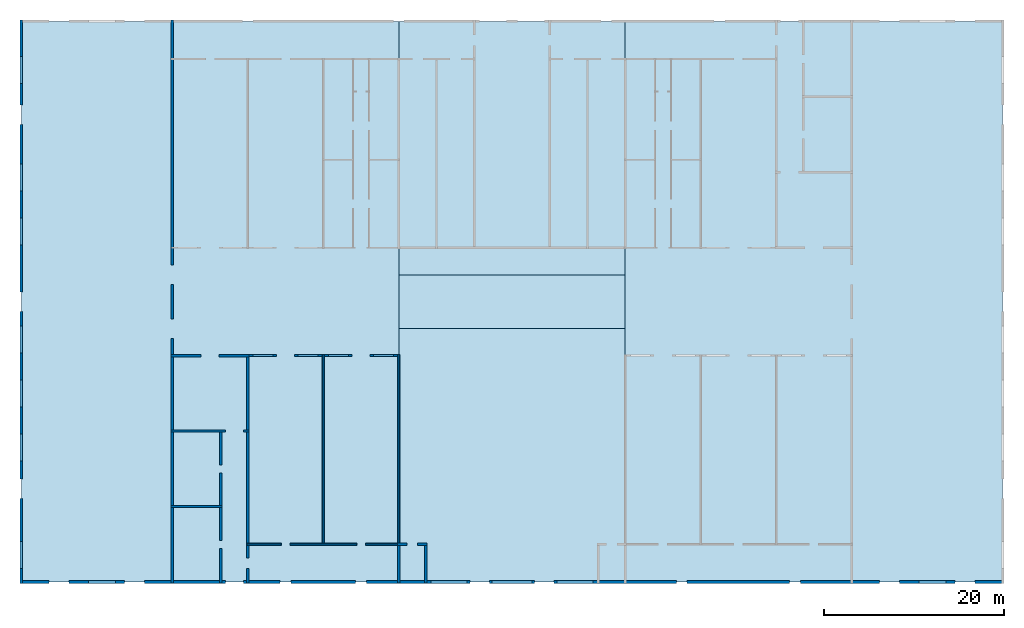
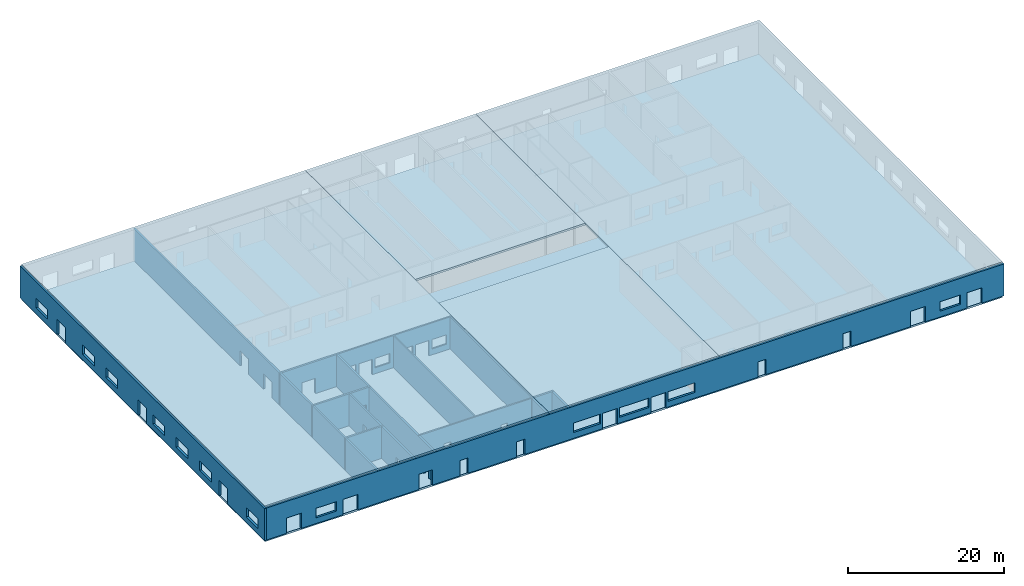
# One storey, part 1 of 3: 15 walls, 5 slabs, 58 openings.
"""IFC4 building model written with IfcOpenShell, lengths in millimetres."""

from ifc_helpers import new_model, si_unit, frame, origin_with_axes, place, context, subcontext, project, spatial, indexed_curve, outline, extrude, type_object, element, save


model = new_model("IFC4")

# Units and contexts
model_context = context("Model", 3, precision=1e-05, world=origin_with_axes())
body_context = subcontext(model_context, "Body", "Model", "MODEL_VIEW")
ifc_project = project(units=[si_unit("AREAUNIT", "SQUARE_METRE"), si_unit("VOLUMEUNIT", "CUBIC_METRE"), si_unit("LENGTHUNIT", "METRE", prefix="MILLI")], contexts=[model_context])

# Site, building, storey
site = spatial("IfcSite", under=ifc_project, Name="PIN 00000000 (sample)")
building = spatial("IfcBuilding", under=site, Name="Sample Shopping Mall")
storey = spatial("IfcBuildingStorey", under=building, Name="Ground Floor", Elevation=0.0)

# Slabs
slab_1_placement = place(None, frame((0.0, 0.0, -300.0), z_axis=(0.0, 0.0, 1.0), x_axis=(1.0, 0.0, 0.0)))
element("IfcSlab", 1, at=slab_1_placement, inside=storey, Name="Ground slab", PredefinedType="FLOOR", context=body_context, shape_type="SweptSolid", body=[
    extrude(outline(indexed_curve([(5400.0, 15600.0), (114599.99999999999, 15600.0), (114599.99999999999, 78000.0), (5400.0, 78000.0)])), None, (0.0, 0.0, 1.0), 300.0),
])
slab_2_placement = place(None, frame((0.0, 0.0, 5000.0), z_axis=(0.0, 0.0, 1.0), x_axis=(1.0, 0.0, 0.0)))
element("IfcSlab", 2, at=slab_2_placement, inside=storey, Name="Roof slab 0", PredefinedType="ROOF", context=body_context, shape_type="SweptSolid", body=[
    extrude(outline(indexed_curve([(5400.0, 15600.0), (47400.0, 15600.0), (47400.0, 78000.0), (5400.0, 78000.0)])), None, (0.0, 0.0, 1.0), 300.0),
])
slab_3_placement = place(None, frame((0.0, 0.0, 5000.0), z_axis=(0.0, 0.0, 1.0), x_axis=(1.0, 0.0, 0.0)))
element("IfcSlab", 3, at=slab_3_placement, inside=storey, Name="Roof slab 1", PredefinedType="ROOF", context=body_context, shape_type="SweptSolid", body=[
    extrude(outline(indexed_curve([(72600.0, 15600.0), (114599.99999999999, 15600.0), (114599.99999999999, 78000.0), (72600.0, 78000.0)])), None, (0.0, 0.0, 1.0), 300.0),
])
slab_4_placement = place(None, frame((0.0, 0.0, 5000.0), z_axis=(0.0, 0.0, 1.0), x_axis=(1.0, 0.0, 0.0)))
element("IfcSlab", 4, at=slab_4_placement, inside=storey, Name="Roof slab 2", PredefinedType="ROOF", context=body_context, shape_type="SweptSolid", body=[
    extrude(outline(indexed_curve([(47400.0, 15600.0), (72600.0, 15600.0), (72600.0, 43799.99999999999), (47400.0, 43799.99999999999)])), None, (0.0, 0.0, 1.0), 300.0),
])
slab_5_placement = place(None, frame((0.0, 0.0, 5000.0), z_axis=(0.0, 0.0, 1.0), x_axis=(1.0, 0.0, 0.0)))
element("IfcSlab", 5, at=slab_5_placement, inside=storey, Name="Roof slab 3", PredefinedType="ROOF", context=body_context, shape_type="SweptSolid", body=[
    extrude(outline(indexed_curve([(47400.0, 49799.99999999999), (72600.0, 49799.99999999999), (72600.0, 78000.0), (47400.0, 78000.0)])), None, (0.0, 0.0, 1.0), 300.0),
])

# Wall, openings
wall_type_1 = type_object("IfcWallType", Name="WT-300", PredefinedType="SOLIDWALL")
wall_1_placement = place(None, frame((5250.0, 15449.999999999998, 0.0), z_axis=(0.0, 0.0, 1.0), x_axis=(1.0, 0.0, 0.0)))
wall_1 = element("IfcWall", 6, at=wall_1_placement, inside=storey, type_object=wall_type_1, Name="W0", context=body_context, shape_type="SweptSolid", body=[
    extrude(outline(indexed_curve([(0.0, 0.0), (0.0, 300.0), (109499.99999999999, 300.0), (109499.99999999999, 0.0), (0.0, 0.0)], self_intersect=False)), origin_with_axes(), (0.0, 0.0, 1.0), 5000.0),
])
opening_1_placement = place(wall_1_placement, frame((50049.99999999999, -99.99999999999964, 0.0), z_axis=(0.0, 0.0, 1.0), x_axis=(1.0, 0.0, 0.0)))
element("IfcOpeningElement", 7, at=opening_1_placement, cuts=wall_1, Name="D03-opening", context=body_context, shape_type="SweptSolid", body=[
    extrude(outline(indexed_curve([(0.0, 0.0), (0.0, 500.0), (1100.0, 500.0), (1100.0, 0.0), (0.0, 0.0)], self_intersect=False)), origin_with_axes(), (0.0, 0.0, 1.0), 2400.0),
])
opening_2_placement = place(wall_1_placement, frame((51150.0, -99.99999999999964, 0.0), z_axis=(0.0, 0.0, 1.0), x_axis=(1.0, 0.0, 0.0)))
element("IfcOpeningElement", 8, at=opening_2_placement, cuts=wall_1, Name="-opening", context=body_context, shape_type="SweptSolid", body=[
    extrude(outline(indexed_curve([(0.0, 0.0), (0.0, 500.0), (1100.0, 500.0), (1100.0, 0.0), (0.0, 0.0)], self_intersect=False)), origin_with_axes(), (0.0, 0.0, 1.0), 2400.0),
])
opening_3_placement = place(wall_1_placement, frame((57250.0, -99.99999999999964, 0.0), z_axis=(0.0, 0.0, 1.0), x_axis=(1.0, 0.0, 0.0)))
element("IfcOpeningElement", 9, at=opening_3_placement, cuts=wall_1, Name="D04-opening", context=body_context, shape_type="SweptSolid", body=[
    extrude(outline(indexed_curve([(0.0, 0.0), (0.0, 500.0), (1100.0, 500.0), (1100.0, 0.0), (0.0, 0.0)], self_intersect=False)), origin_with_axes(), (0.0, 0.0, 1.0), 2400.0),
])
opening_4_placement = place(wall_1_placement, frame((58350.0, -99.99999999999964, 0.0), z_axis=(0.0, 0.0, 1.0), x_axis=(1.0, 0.0, 0.0)))
element("IfcOpeningElement", 10, at=opening_4_placement, cuts=wall_1, Name="-opening", context=body_context, shape_type="SweptSolid", body=[
    extrude(outline(indexed_curve([(0.0, 0.0), (0.0, 500.0), (1100.0, 500.0), (1100.0, 0.0), (0.0, 0.0)], self_intersect=False)), origin_with_axes(), (0.0, 0.0, 1.0), 2400.0),
])
opening_5_placement = place(wall_1_placement, frame((3250.0, -99.99999999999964, 0.0), z_axis=(0.0, 0.0, 1.0), x_axis=(1.0, 0.0, 0.0)))
element("IfcOpeningElement", 11, at=opening_5_placement, cuts=wall_1, Name="D10-opening", context=body_context, shape_type="SweptSolid", body=[
    extrude(outline(indexed_curve([(0.0, 0.0), (0.0, 500.0), (1100.0, 500.0), (1100.0, 0.0), (0.0, 0.0)], self_intersect=False)), origin_with_axes(), (0.0, 0.0, 1.0), 2400.0),
])
opening_6_placement = place(wall_1_placement, frame((4350.000000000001, -99.99999999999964, 0.0), z_axis=(0.0, 0.0, 1.0), x_axis=(1.0, 0.0, 0.0)))
element("IfcOpeningElement", 12, at=opening_6_placement, cuts=wall_1, Name="-opening", context=body_context, shape_type="SweptSolid", body=[
    extrude(outline(indexed_curve([(0.0, 0.0), (0.0, 500.0), (1100.0, 500.0), (1100.0, 0.0), (0.0, 0.0)], self_intersect=False)), origin_with_axes(), (0.0, 0.0, 1.0), 2400.0),
])
opening_7_placement = place(wall_1_placement, frame((11649.999999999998, -99.99999999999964, 0.0), z_axis=(0.0, 0.0, 1.0), x_axis=(1.0, 0.0, 0.0)))
element("IfcOpeningElement", 13, at=opening_7_placement, cuts=wall_1, Name="D11-opening", context=body_context, shape_type="SweptSolid", body=[
    extrude(outline(indexed_curve([(0.0, 0.0), (0.0, 500.0), (1100.0, 500.0), (1100.0, 0.0), (0.0, 0.0)], self_intersect=False)), origin_with_axes(), (0.0, 0.0, 1.0), 2400.0),
])
opening_8_placement = place(wall_1_placement, frame((12750.0, -99.99999999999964, 0.0), z_axis=(0.0, 0.0, 1.0), x_axis=(1.0, 0.0, 0.0)))
element("IfcOpeningElement", 14, at=opening_8_placement, cuts=wall_1, Name="-opening", context=body_context, shape_type="SweptSolid", body=[
    extrude(outline(indexed_curve([(0.0, 0.0), (0.0, 500.0), (1100.0, 500.0), (1100.0, 0.0), (0.0, 0.0)], self_intersect=False)), origin_with_axes(), (0.0, 0.0, 1.0), 2400.0),
])
opening_9_placement = place(wall_1_placement, frame((95650.0, -99.99999999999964, 0.0), z_axis=(0.0, 0.0, 1.0), x_axis=(1.0, 0.0, 0.0)))
element("IfcOpeningElement", 15, at=opening_9_placement, cuts=wall_1, Name="D19-opening", context=body_context, shape_type="SweptSolid", body=[
    extrude(outline(indexed_curve([(0.0, 0.0), (0.0, 500.0), (1100.0, 500.0), (1100.0, 0.0), (0.0, 0.0)], self_intersect=False)), origin_with_axes(), (0.0, 0.0, 1.0), 2400.0),
])
opening_10_placement = place(wall_1_placement, frame((96750.0, -99.99999999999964, 0.0), z_axis=(0.0, 0.0, 1.0), x_axis=(1.0, 0.0, 0.0)))
element("IfcOpeningElement", 16, at=opening_10_placement, cuts=wall_1, Name="-opening", context=body_context, shape_type="SweptSolid", body=[
    extrude(outline(indexed_curve([(0.0, 0.0), (0.0, 500.0), (1100.0, 500.0), (1100.0, 0.0), (0.0, 0.0)], self_intersect=False)), origin_with_axes(), (0.0, 0.0, 1.0), 2400.0),
])
opening_11_placement = place(wall_1_placement, frame((104050.00000000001, -99.99999999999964, 0.0), z_axis=(0.0, 0.0, 1.0), x_axis=(1.0, 0.0, 0.0)))
element("IfcOpeningElement", 17, at=opening_11_placement, cuts=wall_1, Name="D20-opening", context=body_context, shape_type="SweptSolid", body=[
    extrude(outline(indexed_curve([(0.0, 0.0), (0.0, 500.0), (1100.0, 500.0), (1100.0, 0.0), (0.0, 0.0)], self_intersect=False)), origin_with_axes(), (0.0, 0.0, 1.0), 2400.0),
])
opening_12_placement = place(wall_1_placement, frame((105150.0, -99.99999999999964, 0.0), z_axis=(0.0, 0.0, 1.0), x_axis=(1.0, 0.0, 0.0)))
element("IfcOpeningElement", 18, at=opening_12_placement, cuts=wall_1, Name="-opening", context=body_context, shape_type="SweptSolid", body=[
    extrude(outline(indexed_curve([(0.0, 0.0), (0.0, 500.0), (1100.0, 500.0), (1100.0, 0.0), (0.0, 0.0)], self_intersect=False)), origin_with_axes(), (0.0, 0.0, 1.0), 2400.0),
])
opening_13_placement = place(wall_1_placement, frame((28950.000000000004, -99.99999999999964, 0.0), z_axis=(0.0, 0.0, 1.0), x_axis=(1.0, 0.0, 0.0)))
element("IfcOpeningElement", 19, at=opening_13_placement, cuts=wall_1, Name="D23-opening", context=body_context, shape_type="SweptSolid", body=[
    extrude(outline(indexed_curve([(0.0, 0.0), (0.0, 500.0), (1200.0, 500.0), (1200.0, 0.0), (0.0, 0.0)], self_intersect=False)), origin_with_axes(), (0.0, 0.0, 1.0), 2400.0),
])
opening_14_placement = place(wall_1_placement, frame((37350.0, -99.99999999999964, 0.0), z_axis=(0.0, 0.0, 1.0), x_axis=(1.0, 0.0, 0.0)))
element("IfcOpeningElement", 20, at=opening_14_placement, cuts=wall_1, Name="D24-opening", context=body_context, shape_type="SweptSolid", body=[
    extrude(outline(indexed_curve([(0.0, 0.0), (0.0, 500.0), (1200.0, 500.0), (1200.0, 0.0), (0.0, 0.0)], self_intersect=False)), origin_with_axes(), (0.0, 0.0, 1.0), 2400.0),
])
opening_15_placement = place(wall_1_placement, frame((73050.00000000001, -99.99999999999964, 0.0), z_axis=(0.0, 0.0, 1.0), x_axis=(1.0, 0.0, 0.0)))
element("IfcOpeningElement", 21, at=opening_15_placement, cuts=wall_1, Name="D25-opening", context=body_context, shape_type="SweptSolid", body=[
    extrude(outline(indexed_curve([(0.0, 0.0), (0.0, 500.0), (1200.0, 500.0), (1200.0, 0.0), (0.0, 0.0)], self_intersect=False)), origin_with_axes(), (0.0, 0.0, 1.0), 2400.0),
])
opening_16_placement = place(wall_1_placement, frame((85650.0, -99.99999999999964, 0.0), z_axis=(0.0, 0.0, 1.0), x_axis=(1.0, 0.0, 0.0)))
element("IfcOpeningElement", 22, at=opening_16_placement, cuts=wall_1, Name="D26-opening", context=body_context, shape_type="SweptSolid", body=[
    extrude(outline(indexed_curve([(0.0, 0.0), (0.0, 500.0), (1200.0, 500.0), (1200.0, 0.0), (0.0, 0.0)], self_intersect=False)), origin_with_axes(), (0.0, 0.0, 1.0), 2400.0),
])
opening_17_placement = place(wall_1_placement, frame((22850.0, -99.99999999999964, 0.0), z_axis=(0.0, 0.0, 1.0), x_axis=(1.0, 0.0, 0.0)))
element("IfcOpeningElement", 23, at=opening_17_placement, cuts=wall_1, Name="D33-opening", context=body_context, shape_type="SweptSolid", body=[
    extrude(outline(indexed_curve([(0.0, 0.0), (0.0, 500.0), (1000.0, 500.0), (1000.0, 0.0), (0.0, 0.0)], self_intersect=False)), origin_with_axes(), (0.0, 0.0, 1.0), 2400.0),
])
opening_18_placement = place(wall_1_placement, frame((23850.0, -99.99999999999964, 0.0), z_axis=(0.0, 0.0, 1.0), x_axis=(1.0, 0.0, 0.0)))
element("IfcOpeningElement", 24, at=opening_18_placement, cuts=wall_1, Name="-opening", context=body_context, shape_type="SweptSolid", body=[
    extrude(outline(indexed_curve([(0.0, 0.0), (0.0, 500.0), (1000.0, 500.0), (1000.0, 0.0), (0.0, 0.0)], self_intersect=False)), origin_with_axes(), (0.0, 0.0, 1.0), 2400.0),
])
opening_19_placement = place(wall_1_placement, frame((45750.0, -99.99999999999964, 900.0), z_axis=(0.0, 0.0, 1.0), x_axis=(1.0, 0.0, 0.0)))
element("IfcOpeningElement", 25, at=opening_19_placement, cuts=wall_1, Name="-opening", context=body_context, shape_type="SweptSolid", body=[
    extrude(outline(indexed_curve([(0.0, 0.0), (0.0, 500.0), (4000.0, 500.0), (4000.0, 0.0), (0.0, 0.0)], self_intersect=False)), origin_with_axes(), (0.0, 0.0, 1.0), 1500.0),
])
opening_20_placement = place(wall_1_placement, frame((52549.99999999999, -99.99999999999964, 900.0), z_axis=(0.0, 0.0, 1.0), x_axis=(1.0, 0.0, 0.0)))
element("IfcOpeningElement", 26, at=opening_20_placement, cuts=wall_1, Name="-opening", context=body_context, shape_type="SweptSolid", body=[
    extrude(outline(indexed_curve([(0.0, 0.0), (0.0, 500.0), (4400.0, 500.0), (4400.0, 0.0), (0.0, 0.0)], self_intersect=False)), origin_with_axes(), (0.0, 0.0, 1.0), 1500.0),
])
opening_21_placement = place(wall_1_placement, frame((59750.0, -99.99999999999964, 900.0), z_axis=(0.0, 0.0, 1.0), x_axis=(1.0, 0.0, 0.0)))
element("IfcOpeningElement", 27, at=opening_21_placement, cuts=wall_1, Name="-opening", context=body_context, shape_type="SweptSolid", body=[
    extrude(outline(indexed_curve([(0.0, 0.0), (0.0, 500.0), (4000.0, 500.0), (4000.0, 0.0), (0.0, 0.0)], self_intersect=False)), origin_with_axes(), (0.0, 0.0, 1.0), 1500.0),
])
opening_22_placement = place(wall_1_placement, frame((7650.0, -99.99999999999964, 900.0), z_axis=(0.0, 0.0, 1.0), x_axis=(1.0, 0.0, 0.0)))
element("IfcOpeningElement", 28, at=opening_22_placement, cuts=wall_1, Name="-opening", context=body_context, shape_type="SweptSolid", body=[
    extrude(outline(indexed_curve([(0.0, 0.0), (0.0, 500.0), (3000.0, 500.0), (3000.0, 0.0), (0.0, 0.0)], self_intersect=False)), origin_with_axes(), (0.0, 0.0, 1.0), 1500.0),
])
opening_23_placement = place(wall_1_placement, frame((100050.00000000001, -99.99999999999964, 900.0), z_axis=(0.0, 0.0, 1.0), x_axis=(1.0, 0.0, 0.0)))
element("IfcOpeningElement", 29, at=opening_23_placement, cuts=wall_1, Name="-opening", context=body_context, shape_type="SweptSolid", body=[
    extrude(outline(indexed_curve([(0.0, 0.0), (0.0, 500.0), (3000.0, 500.0), (3000.0, 0.0), (0.0, 0.0)], self_intersect=False)), origin_with_axes(), (0.0, 0.0, 1.0), 1500.0),
])

wall_2_placement = place(None, frame((5550.000000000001, 15449.999999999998, 0.0), z_axis=(0.0, 0.0, 1.0), x_axis=(6.123233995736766e-17, 1.0, 0.0)))
wall_2 = element("IfcWall", 30, at=wall_2_placement, inside=storey, type_object=wall_type_1, Name="W27", context=body_context, shape_type="SweptSolid", body=[
    extrude(outline(indexed_curve([(0.0, 0.0), (0.0, 300.0), (62699.99999999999, 300.0), (62699.99999999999, 0.0), (0.0, 0.0)], self_intersect=False)), origin_with_axes(), (0.0, 0.0, 1.0), 5000.0),
])
opening_24_placement = place(wall_2_placement, frame((9450.0, -99.99999999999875, 0.0), z_axis=(0.0, 0.0, 1.0), x_axis=(1.0, 0.0, 0.0)))
element("IfcOpeningElement", 31, at=opening_24_placement, cuts=wall_2, Name="D07-opening", context=body_context, shape_type="SweptSolid", body=[
    extrude(outline(indexed_curve([(0.0, 0.0), (0.0, 500.0), (1100.0, 500.0), (1100.0, 0.0), (0.0, 0.0)], self_intersect=False)), origin_with_axes(), (0.0, 0.0, 1.0), 2400.0),
])
opening_25_placement = place(wall_2_placement, frame((10550.0, -99.99999999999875, 0.0), z_axis=(0.0, 0.0, 1.0), x_axis=(1.0, 0.0, 0.0)))
element("IfcOpeningElement", 32, at=opening_25_placement, cuts=wall_2, Name="-opening", context=body_context, shape_type="SweptSolid", body=[
    extrude(outline(indexed_curve([(0.0, 0.0), (0.0, 500.0), (1100.0, 500.0), (1100.0, 0.0), (0.0, 0.0)], self_intersect=False)), origin_with_axes(), (0.0, 0.0, 1.0), 2400.0),
])
opening_26_placement = place(wall_2_placement, frame((30250.000000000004, -99.99999999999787, 0.0), z_axis=(0.0, 0.0, 1.0), x_axis=(1.0, 0.0, 0.0)))
element("IfcOpeningElement", 33, at=opening_26_placement, cuts=wall_2, Name="D08-opening", context=body_context, shape_type="SweptSolid", body=[
    extrude(outline(indexed_curve([(0.0, 0.0), (0.0, 500.0), (1100.0, 500.0), (1100.0, 0.0), (0.0, 0.0)], self_intersect=False)), origin_with_axes(), (0.0, 0.0, 1.0), 2400.0),
])
opening_27_placement = place(wall_2_placement, frame((31349.999999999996, -99.99999999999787, 0.0), z_axis=(0.0, 0.0, 1.0), x_axis=(1.0, 0.0, 0.0)))
element("IfcOpeningElement", 34, at=opening_27_placement, cuts=wall_2, Name="-opening", context=body_context, shape_type="SweptSolid", body=[
    extrude(outline(indexed_curve([(0.0, 0.0), (0.0, 500.0), (1100.0, 500.0), (1100.0, 0.0), (0.0, 0.0)], self_intersect=False)), origin_with_axes(), (0.0, 0.0, 1.0), 2400.0),
])
opening_28_placement = place(wall_2_placement, frame((51049.99999999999, -99.99999999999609, 0.0), z_axis=(0.0, 0.0, 1.0), x_axis=(1.0, 0.0, 0.0)))
element("IfcOpeningElement", 35, at=opening_28_placement, cuts=wall_2, Name="D09-opening", context=body_context, shape_type="SweptSolid", body=[
    extrude(outline(indexed_curve([(0.0, 0.0), (0.0, 500.0), (1100.0, 500.0), (1100.0, 0.0), (0.0, 0.0)], self_intersect=False)), origin_with_axes(), (0.0, 0.0, 1.0), 2400.0),
])
opening_29_placement = place(wall_2_placement, frame((52149.99999999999, -99.99999999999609, 0.0), z_axis=(0.0, 0.0, 1.0), x_axis=(1.0, 0.0, 0.0)))
element("IfcOpeningElement", 36, at=opening_29_placement, cuts=wall_2, Name="-opening", context=body_context, shape_type="SweptSolid", body=[
    extrude(outline(indexed_curve([(0.0, 0.0), (0.0, 500.0), (1100.0, 500.0), (1100.0, 0.0), (0.0, 0.0)], self_intersect=False)), origin_with_axes(), (0.0, 0.0, 1.0), 2400.0),
])
opening_30_placement = place(wall_2_placement, frame((1650.000000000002, -99.99999999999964, 900.0), z_axis=(0.0, 0.0, 1.0), x_axis=(1.0, 0.0, 0.0)))
element("IfcOpeningElement", 37, at=opening_30_placement, cuts=wall_2, Name="-opening", context=body_context, shape_type="SweptSolid", body=[
    extrude(outline(indexed_curve([(0.0, 0.0), (0.0, 500.0), (3000.0, 500.0), (3000.0, 0.0), (0.0, 0.0)], self_intersect=False)), origin_with_axes(), (0.0, 0.0, 1.0), 1500.0),
])
opening_31_placement = place(wall_2_placement, frame((13650.000000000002, -99.99999999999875, 900.0), z_axis=(0.0, 0.0, 1.0), x_axis=(1.0, 0.0, 0.0)))
element("IfcOpeningElement", 38, at=opening_31_placement, cuts=wall_2, Name="-opening", context=body_context, shape_type="SweptSolid", body=[
    extrude(outline(indexed_curve([(0.0, 0.0), (0.0, 500.0), (3000.0, 500.0), (3000.0, 0.0), (0.0, 0.0)], self_intersect=False)), origin_with_axes(), (0.0, 0.0, 1.0), 1500.0),
])
opening_32_placement = place(wall_2_placement, frame((19650.0, -99.99999999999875, 900.0), z_axis=(0.0, 0.0, 1.0), x_axis=(1.0, 0.0, 0.0)))
element("IfcOpeningElement", 39, at=opening_32_placement, cuts=wall_2, Name="-opening", context=body_context, shape_type="SweptSolid", body=[
    extrude(outline(indexed_curve([(0.0, 0.0), (0.0, 500.0), (3000.0, 500.0), (3000.0, 0.0), (0.0, 0.0)], self_intersect=False)), origin_with_axes(), (0.0, 0.0, 1.0), 1500.0),
])
opening_33_placement = place(wall_2_placement, frame((25650.0, -99.99999999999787, 900.0), z_axis=(0.0, 0.0, 1.0), x_axis=(1.0, 0.0, 0.0)))
element("IfcOpeningElement", 40, at=opening_33_placement, cuts=wall_2, Name="-opening", context=body_context, shape_type="SweptSolid", body=[
    extrude(outline(indexed_curve([(0.0, 0.0), (0.0, 500.0), (3000.0, 500.0), (3000.0, 0.0), (0.0, 0.0)], self_intersect=False)), origin_with_axes(), (0.0, 0.0, 1.0), 1500.0),
])
opening_34_placement = place(wall_2_placement, frame((37650.00000000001, -99.99999999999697, 900.0), z_axis=(0.0, 0.0, 1.0), x_axis=(1.0, 0.0, 0.0)))
element("IfcOpeningElement", 41, at=opening_34_placement, cuts=wall_2, Name="-opening", context=body_context, shape_type="SweptSolid", body=[
    extrude(outline(indexed_curve([(0.0, 0.0), (0.0, 500.0), (3000.0, 500.0), (3000.0, 0.0), (0.0, 0.0)], self_intersect=False)), origin_with_axes(), (0.0, 0.0, 1.0), 1500.0),
])
opening_35_placement = place(wall_2_placement, frame((43650.00000000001, -99.99999999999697, 900.0), z_axis=(0.0, 0.0, 1.0), x_axis=(1.0, 0.0, 0.0)))
element("IfcOpeningElement", 42, at=opening_35_placement, cuts=wall_2, Name="-opening", context=body_context, shape_type="SweptSolid", body=[
    extrude(outline(indexed_curve([(0.0, 0.0), (0.0, 500.0), (3000.0, 500.0), (3000.0, 0.0), (0.0, 0.0)], self_intersect=False)), origin_with_axes(), (0.0, 0.0, 1.0), 1500.0),
])
opening_36_placement = place(wall_2_placement, frame((55650.00000000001, -99.99999999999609, 900.0), z_axis=(0.0, 0.0, 1.0), x_axis=(1.0, 0.0, 0.0)))
element("IfcOpeningElement", 43, at=opening_36_placement, cuts=wall_2, Name="-opening", context=body_context, shape_type="SweptSolid", body=[
    extrude(outline(indexed_curve([(0.0, 0.0), (0.0, 500.0), (3000.0, 500.0), (3000.0, 0.0), (0.0, 0.0)], self_intersect=False)), origin_with_axes(), (0.0, 0.0, 1.0), 1500.0),
])

wall_type_2 = type_object("IfcWallType", Name="WT-200", PredefinedType="SOLIDWALL")
wall_3_placement = place(None, frame((30500.0, 19700.0, 0.0), z_axis=(0.0, 0.0, 1.0), x_axis=(1.0, 0.0, 0.0)))
wall_3 = element("IfcWall", 44, at=wall_3_placement, inside=storey, type_object=wall_type_2, Name="W1", context=body_context, shape_type="SweptSolid", body=[
    extrude(outline(indexed_curve([(0.0, 0.0), (0.0, 200.0), (16999.999999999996, 200.0), (16999.999999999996, 0.0), (0.0, 0.0)], self_intersect=False)), origin_with_axes(), (0.0, 0.0, 1.0), 5000.0),
])
opening_37_placement = place(wall_3_placement, frame((3800.000000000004, -99.99999999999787, 0.0), z_axis=(0.0, 0.0, 1.0), x_axis=(1.0, 0.0, 0.0)))
element("IfcOpeningElement", 45, at=opening_37_placement, cuts=wall_3, Name="-opening", context=body_context, shape_type="SweptSolid", body=[
    extrude(outline(indexed_curve([(0.0, 0.0), (0.0, 400.0), (1000.0, 400.0), (1000.0, 0.0), (0.0, 0.0)], self_intersect=False)), origin_with_axes(), (0.0, 0.0, 1.0), 2400.0),
])
opening_38_placement = place(wall_3_placement, frame((12200.000000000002, -99.99999999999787, 0.0), z_axis=(0.0, 0.0, 1.0), x_axis=(1.0, 0.0, 0.0)))
element("IfcOpeningElement", 46, at=opening_38_placement, cuts=wall_3, Name="-opening", context=body_context, shape_type="SweptSolid", body=[
    extrude(outline(indexed_curve([(0.0, 0.0), (0.0, 400.0), (1000.0, 400.0), (1000.0, 0.0), (0.0, 0.0)], self_intersect=False)), origin_with_axes(), (0.0, 0.0, 1.0), 2400.0),
])

wall_4_placement = place(None, frame((30500.0, 40699.99999999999, 0.0), z_axis=(0.0, 0.0, 1.0), x_axis=(1.0, 0.0, 0.0)))
wall_4 = element("IfcWall", 47, at=wall_4_placement, inside=storey, type_object=wall_type_2, Name="W8", context=body_context, shape_type="SweptSolid", body=[
    extrude(outline(indexed_curve([(0.0, 0.0), (0.0, 200.0), (16999.999999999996, 200.0), (16999.999999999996, 0.0), (0.0, 0.0)], self_intersect=False)), origin_with_axes(), (0.0, 0.0, 1.0), 5000.0),
])
opening_39_placement = place(wall_4_placement, frame((3299.9999999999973, -100.00000000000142, 0.0), z_axis=(0.0, 0.0, 1.0), x_axis=(1.0, 0.0, 0.0)))
element("IfcOpeningElement", 48, at=opening_39_placement, cuts=wall_4, Name="D37-opening", context=body_context, shape_type="SweptSolid", body=[
    extrude(outline(indexed_curve([(0.0, 0.0), (0.0, 400.0), (1000.0, 400.0), (1000.0, 0.0), (0.0, 0.0)], self_intersect=False)), origin_with_axes(), (0.0, 0.0, 1.0), 2400.0),
])
opening_40_placement = place(wall_4_placement, frame((4300.000000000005, -100.00000000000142, 0.0), z_axis=(0.0, 0.0, 1.0), x_axis=(1.0, 0.0, 0.0)))
element("IfcOpeningElement", 49, at=opening_40_placement, cuts=wall_4, Name="-opening", context=body_context, shape_type="SweptSolid", body=[
    extrude(outline(indexed_curve([(0.0, 0.0), (0.0, 400.0), (1000.0, 400.0), (1000.0, 0.0), (0.0, 0.0)], self_intersect=False)), origin_with_axes(), (0.0, 0.0, 1.0), 2400.0),
])
opening_41_placement = place(wall_4_placement, frame((11700.000000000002, -100.00000000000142, 0.0), z_axis=(0.0, 0.0, 1.0), x_axis=(1.0, 0.0, 0.0)))
element("IfcOpeningElement", 50, at=opening_41_placement, cuts=wall_4, Name="D39-opening", context=body_context, shape_type="SweptSolid", body=[
    extrude(outline(indexed_curve([(0.0, 0.0), (0.0, 400.0), (1000.0, 400.0), (1000.0, 0.0), (0.0, 0.0)], self_intersect=False)), origin_with_axes(), (0.0, 0.0, 1.0), 2400.0),
])
opening_42_placement = place(wall_4_placement, frame((12700.000000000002, -100.00000000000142, 0.0), z_axis=(0.0, 0.0, 1.0), x_axis=(1.0, 0.0, 0.0)))
element("IfcOpeningElement", 51, at=opening_42_placement, cuts=wall_4, Name="-opening", context=body_context, shape_type="SweptSolid", body=[
    extrude(outline(indexed_curve([(0.0, 0.0), (0.0, 400.0), (1000.0, 400.0), (1000.0, 0.0), (0.0, 0.0)], self_intersect=False)), origin_with_axes(), (0.0, 0.0, 1.0), 2400.0),
])
opening_43_placement = place(wall_4_placement, frame((700.0000000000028, -100.00000000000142, 900.0), z_axis=(0.0, 0.0, 1.0), x_axis=(1.0, 0.0, 0.0)))
element("IfcOpeningElement", 52, at=opening_43_placement, cuts=wall_4, Name="-opening", context=body_context, shape_type="SweptSolid", body=[
    extrude(outline(indexed_curve([(0.0, 0.0), (0.0, 400.0), (2200.0, 400.0), (2200.0, 0.0), (0.0, 0.0)], self_intersect=False)), origin_with_axes(), (0.0, 0.0, 1.0), 1500.0),
])
opening_44_placement = place(wall_4_placement, frame((5700.000000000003, -100.00000000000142, 900.0), z_axis=(0.0, 0.0, 1.0), x_axis=(1.0, 0.0, 0.0)))
element("IfcOpeningElement", 53, at=opening_44_placement, cuts=wall_4, Name="-opening", context=body_context, shape_type="SweptSolid", body=[
    extrude(outline(indexed_curve([(0.0, 0.0), (0.0, 400.0), (2200.0, 400.0), (2200.0, 0.0), (0.0, 0.0)], self_intersect=False)), origin_with_axes(), (0.0, 0.0, 1.0), 1500.0),
])
opening_45_placement = place(wall_4_placement, frame((9100.000000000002, -100.00000000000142, 900.0), z_axis=(0.0, 0.0, 1.0), x_axis=(1.0, 0.0, 0.0)))
element("IfcOpeningElement", 54, at=opening_45_placement, cuts=wall_4, Name="-opening", context=body_context, shape_type="SweptSolid", body=[
    extrude(outline(indexed_curve([(0.0, 0.0), (0.0, 400.0), (2200.0, 400.0), (2200.0, 0.0), (0.0, 0.0)], self_intersect=False)), origin_with_axes(), (0.0, 0.0, 1.0), 1500.0),
])
opening_46_placement = place(wall_4_placement, frame((14100.000000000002, -100.00000000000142, 900.0), z_axis=(0.0, 0.0, 1.0), x_axis=(1.0, 0.0, 0.0)))
element("IfcOpeningElement", 55, at=opening_46_placement, cuts=wall_4, Name="-opening", context=body_context, shape_type="SweptSolid", body=[
    extrude(outline(indexed_curve([(0.0, 0.0), (0.0, 400.0), (2200.0, 400.0), (2200.0, 0.0), (0.0, 0.0)], self_intersect=False)), origin_with_axes(), (0.0, 0.0, 1.0), 1500.0),
])

# Walls
for number, where, z_axis, x_axis, name in (
    (56, (39100.0, 19700.0, 0.0), (0.0, 0.0, 1.0), (6.123233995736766e-17, 1.0, 0.0), "W32"),
    (57, (47500.0, 19700.0, 0.0), (0.0, 0.0, 1.0), (6.123233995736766e-17, 1.0, 0.0), "W37"),
):
    element("IfcWall", number, at=place(None, frame(where, z_axis=z_axis, x_axis=x_axis)), inside=storey, type_object=wall_type_2, Name=name, context=body_context, shape_type="SweptSolid", body=[
        extrude(outline(indexed_curve([(0.0, 0.0), (0.0, 200.0), (21199.999999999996, 200.0), (21199.999999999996, 0.0), (0.0, 0.0)], self_intersect=False)), origin_with_axes(), (0.0, 0.0, 1.0), 5000.0),
    ])

# Wall, opening
wall_type_3 = type_object("IfcWallType", Name="WT-250", PredefinedType="SOLIDWALL")
wall_5_placement = place(None, frame((47275.0, 19675.0, 0.0), z_axis=(0.0, 0.0, 1.0), x_axis=(1.0, 0.0, 0.0)))
wall_5 = element("IfcWall", 58, at=wall_5_placement, inside=storey, type_object=wall_type_3, Name="W2", context=body_context, shape_type="SweptSolid", body=[
    extrude(outline(indexed_curve([(0.0, 0.0), (0.0, 250.0), (3250.0, 250.0), (3250.0, 0.0), (0.0, 0.0)], self_intersect=False)), origin_with_axes(), (0.0, 0.0, 1.0), 5000.0),
])
opening_47_placement = place(wall_5_placement, frame((1024.9999999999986, -100.00000000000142, 0.0), z_axis=(0.0, 0.0, 1.0), x_axis=(1.0, 0.0, 0.0)))
element("IfcOpeningElement", 59, at=opening_47_placement, cuts=wall_5, Name="D01-opening", context=body_context, shape_type="SweptSolid", body=[
    extrude(outline(indexed_curve([(0.0, 0.0), (0.0, 450.0), (1200.0, 450.0), (1200.0, 0.0), (0.0, 0.0)], self_intersect=False)), origin_with_axes(), (0.0, 0.0, 1.0), 2400.0),
])

# Wall
wall_6_placement = place(None, frame((22075.0, 23875.0, 0.0), z_axis=(0.0, 0.0, 1.0), x_axis=(1.0, 0.0, 0.0)))
element("IfcWall", 60, at=wall_6_placement, inside=storey, type_object=wall_type_3, Name="W5", context=body_context, shape_type="SweptSolid", body=[
    extrude(outline(indexed_curve([(0.0, 0.0), (0.0, 250.0), (5650.000000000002, 250.0), (5650.000000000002, 0.0), (0.0, 0.0)], self_intersect=False)), origin_with_axes(), (0.0, 0.0, 1.0), 5000.0),
])

# Wall, openings
wall_7_placement = place(None, frame((22075.0, 32274.999999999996, 0.0), z_axis=(0.0, 0.0, 1.0), x_axis=(1.0, 0.0, 0.0)))
wall_7 = element("IfcWall", 61, at=wall_7_placement, inside=storey, type_object=wall_type_3, Name="W6", context=body_context, shape_type="SweptSolid", body=[
    extrude(outline(indexed_curve([(0.0, 0.0), (0.0, 250.0), (8650.000000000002, 250.0), (8650.000000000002, 0.0), (0.0, 0.0)], self_intersect=False)), origin_with_axes(), (0.0, 0.0, 1.0), 5000.0),
])
opening_48_placement = place(wall_7_placement, frame((6025.000000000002, -100.00000000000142, 0.0), z_axis=(0.0, 0.0, 1.0), x_axis=(1.0, 0.0, 0.0)))
element("IfcOpeningElement", 62, at=opening_48_placement, cuts=wall_7, Name="D32-opening", context=body_context, shape_type="SweptSolid", body=[
    extrude(outline(indexed_curve([(0.0, 0.0), (0.0, 450.0), (1000.0, 450.0), (1000.0, 0.0), (0.0, 0.0)], self_intersect=False)), origin_with_axes(), (0.0, 0.0, 1.0), 2400.0),
])
opening_49_placement = place(wall_7_placement, frame((7025.000000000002, -100.00000000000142, 0.0), z_axis=(0.0, 0.0, 1.0), x_axis=(1.0, 0.0, 0.0)))
element("IfcOpeningElement", 63, at=opening_49_placement, cuts=wall_7, Name="-opening", context=body_context, shape_type="SweptSolid", body=[
    extrude(outline(indexed_curve([(0.0, 0.0), (0.0, 450.0), (1000.0, 450.0), (1000.0, 0.0), (0.0, 0.0)], self_intersect=False)), origin_with_axes(), (0.0, 0.0, 1.0), 2400.0),
])

wall_8_placement = place(None, frame((22075.0, 40674.99999999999, 0.0), z_axis=(0.0, 0.0, 1.0), x_axis=(1.0, 0.0, 0.0)))
wall_8 = element("IfcWall", 64, at=wall_8_placement, inside=storey, type_object=wall_type_3, Name="W7", context=body_context, shape_type="SweptSolid", body=[
    extrude(outline(indexed_curve([(0.0, 0.0), (0.0, 250.0), (8650.000000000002, 250.0), (8650.000000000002, 0.0), (0.0, 0.0)], self_intersect=False)), origin_with_axes(), (0.0, 0.0, 1.0), 5000.0),
])
opening_50_placement = place(wall_8_placement, frame((3324.999999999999, -99.99999999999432, 0.0), z_axis=(0.0, 0.0, 1.0), x_axis=(1.0, 0.0, 0.0)))
element("IfcOpeningElement", 65, at=opening_50_placement, cuts=wall_8, Name="D31-opening", context=body_context, shape_type="SweptSolid", body=[
    extrude(outline(indexed_curve([(0.0, 0.0), (0.0, 450.0), (1000.0, 450.0), (1000.0, 0.0), (0.0, 0.0)], self_intersect=False)), origin_with_axes(), (0.0, 0.0, 1.0), 2400.0),
])
opening_51_placement = place(wall_8_placement, frame((4324.999999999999, -99.99999999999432, 0.0), z_axis=(0.0, 0.0, 1.0), x_axis=(1.0, 0.0, 0.0)))
element("IfcOpeningElement", 66, at=opening_51_placement, cuts=wall_8, Name="-opening", context=body_context, shape_type="SweptSolid", body=[
    extrude(outline(indexed_curve([(0.0, 0.0), (0.0, 450.0), (1000.0, 450.0), (1000.0, 0.0), (0.0, 0.0)], self_intersect=False)), origin_with_axes(), (0.0, 0.0, 1.0), 2400.0),
])

wall_9_placement = place(None, frame((22325.0, 15475.0, 0.0), z_axis=(0.0, 0.0, 1.0), x_axis=(6.123233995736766e-17, 1.0, 0.0)))
wall_9 = element("IfcWall", 67, at=wall_9_placement, inside=storey, type_object=wall_type_3, Name="W28", context=body_context, shape_type="SweptSolid", body=[
    extrude(outline(indexed_curve([(0.0, 0.0), (0.0, 250.0), (62650.0, 250.0), (62650.0, 0.0), (0.0, 0.0)], self_intersect=False)), origin_with_axes(), (0.0, 0.0, 1.0), 5000.0),
])
opening_52_placement = place(wall_9_placement, frame((27225.0, -99.99999999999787, 0.0), z_axis=(0.0, 0.0, 1.0), x_axis=(1.0, 0.0, 0.0)))
element("IfcOpeningElement", 68, at=opening_52_placement, cuts=wall_9, Name="D05-opening", context=body_context, shape_type="SweptSolid", body=[
    extrude(outline(indexed_curve([(0.0, 0.0), (0.0, 450.0), (1100.0, 450.0), (1100.0, 0.0), (0.0, 0.0)], self_intersect=False)), origin_with_axes(), (0.0, 0.0, 1.0), 2400.0),
])
opening_53_placement = place(wall_9_placement, frame((28324.999999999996, -99.99999999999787, 0.0), z_axis=(0.0, 0.0, 1.0), x_axis=(1.0, 0.0, 0.0)))
element("IfcOpeningElement", 69, at=opening_53_placement, cuts=wall_9, Name="-opening", context=body_context, shape_type="SweptSolid", body=[
    extrude(outline(indexed_curve([(0.0, 0.0), (0.0, 450.0), (1100.0, 450.0), (1100.0, 0.0), (0.0, 0.0)], self_intersect=False)), origin_with_axes(), (0.0, 0.0, 1.0), 2400.0),
])
opening_54_placement = place(wall_9_placement, frame((33225.0, -99.99999999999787, 0.0), z_axis=(0.0, 0.0, 1.0), x_axis=(1.0, 0.0, 0.0)))
element("IfcOpeningElement", 70, at=opening_54_placement, cuts=wall_9, Name="D06-opening", context=body_context, shape_type="SweptSolid", body=[
    extrude(outline(indexed_curve([(0.0, 0.0), (0.0, 450.0), (1100.0, 450.0), (1100.0, 0.0), (0.0, 0.0)], self_intersect=False)), origin_with_axes(), (0.0, 0.0, 1.0), 2400.0),
])
opening_55_placement = place(wall_9_placement, frame((34325.0, -99.99999999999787, 0.0), z_axis=(0.0, 0.0, 1.0), x_axis=(1.0, 0.0, 0.0)))
element("IfcOpeningElement", 71, at=opening_55_placement, cuts=wall_9, Name="-opening", context=body_context, shape_type="SweptSolid", body=[
    extrude(outline(indexed_curve([(0.0, 0.0), (0.0, 450.0), (1100.0, 450.0), (1100.0, 0.0), (0.0, 0.0)], self_intersect=False)), origin_with_axes(), (0.0, 0.0, 1.0), 2400.0),
])

wall_10_placement = place(None, frame((27725.0, 15475.0, 0.0), z_axis=(0.0, 0.0, 1.0), x_axis=(6.123233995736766e-17, 1.0, 0.0)))
wall_10 = element("IfcWall", 72, at=wall_10_placement, inside=storey, type_object=wall_type_3, Name="W29", context=body_context, shape_type="SweptSolid", body=[
    extrude(outline(indexed_curve([(0.0, 0.0), (0.0, 250.0), (17049.999999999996, 250.0), (17049.999999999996, 0.0), (0.0, 0.0)], self_intersect=False)), origin_with_axes(), (0.0, 0.0, 1.0), 5000.0),
])
opening_56_placement = place(wall_10_placement, frame((12274.999999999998, -100.00000000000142, 0.0), z_axis=(0.0, 0.0, 1.0), x_axis=(1.0, 0.0, 0.0)))
element("IfcOpeningElement", 73, at=opening_56_placement, cuts=wall_10, Name="-opening", context=body_context, shape_type="SweptSolid", body=[
    extrude(outline(indexed_curve([(0.0, 0.0), (0.0, 450.0), (900.0, 450.0), (900.0, 0.0), (0.0, 0.0)], self_intersect=False)), origin_with_axes(), (0.0, 0.0, 1.0), 2400.0),
])
opening_57_placement = place(wall_10_placement, frame((3875.0, -100.00000000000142, 0.0), z_axis=(0.0, 0.0, 1.0), x_axis=(1.0, 0.0, 0.0)))
element("IfcOpeningElement", 74, at=opening_57_placement, cuts=wall_10, Name="-opening", context=body_context, shape_type="SweptSolid", body=[
    extrude(outline(indexed_curve([(0.0, 0.0), (0.0, 450.0), (900.0, 450.0), (900.0, 0.0), (0.0, 0.0)], self_intersect=False)), origin_with_axes(), (0.0, 0.0, 1.0), 2400.0),
])

# Wall, opening
wall_11_placement = place(None, frame((30725.0, 15475.0, 0.0), z_axis=(0.0, 0.0, 1.0), x_axis=(6.123233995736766e-17, 1.0, 0.0)))
wall_11 = element("IfcWall", 75, at=wall_11_placement, inside=storey, type_object=wall_type_3, Name="W30", context=body_context, shape_type="SweptSolid", body=[
    extrude(outline(indexed_curve([(0.0, 0.0), (0.0, 250.0), (25449.999999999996, 250.0), (25449.999999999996, 0.0), (0.0, 0.0)], self_intersect=False)), origin_with_axes(), (0.0, 0.0, 1.0), 5000.0),
])
opening_58_placement = place(wall_11_placement, frame((1625.0000000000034, -100.00000000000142, 0.0), z_axis=(0.0, 0.0, 1.0), x_axis=(1.0, 0.0, 0.0)))
element("IfcOpeningElement", 76, at=opening_58_placement, cuts=wall_11, Name="-opening", context=body_context, shape_type="SweptSolid", body=[
    extrude(outline(indexed_curve([(0.0, 0.0), (0.0, 450.0), (1200.0, 450.0), (1200.0, 0.0), (0.0, 0.0)], self_intersect=False)), origin_with_axes(), (0.0, 0.0, 1.0), 2400.0),
])

# Walls
for number, where, z_axis, x_axis, name in (
    (77, (47525.0, 15475.0, 0.0), (0.0, 0.0, 1.0), (6.123233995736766e-17, 1.0, 0.0), "W36"),
    (78, (50525.0, 15475.0, 0.0), (0.0, 0.0, 1.0), (6.123233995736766e-17, 1.0, 0.0), "W39"),
):
    element("IfcWall", number, at=place(None, frame(where, z_axis=z_axis, x_axis=x_axis)), inside=storey, type_object=wall_type_3, Name=name, context=body_context, shape_type="SweptSolid", body=[
        extrude(outline(indexed_curve([(0.0, 0.0), (0.0, 250.0), (4450.000000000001, 250.0), (4450.000000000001, 0.0), (0.0, 0.0)], self_intersect=False)), origin_with_axes(), (0.0, 0.0, 1.0), 5000.0),
    ])

save(model, "model.ifc")
